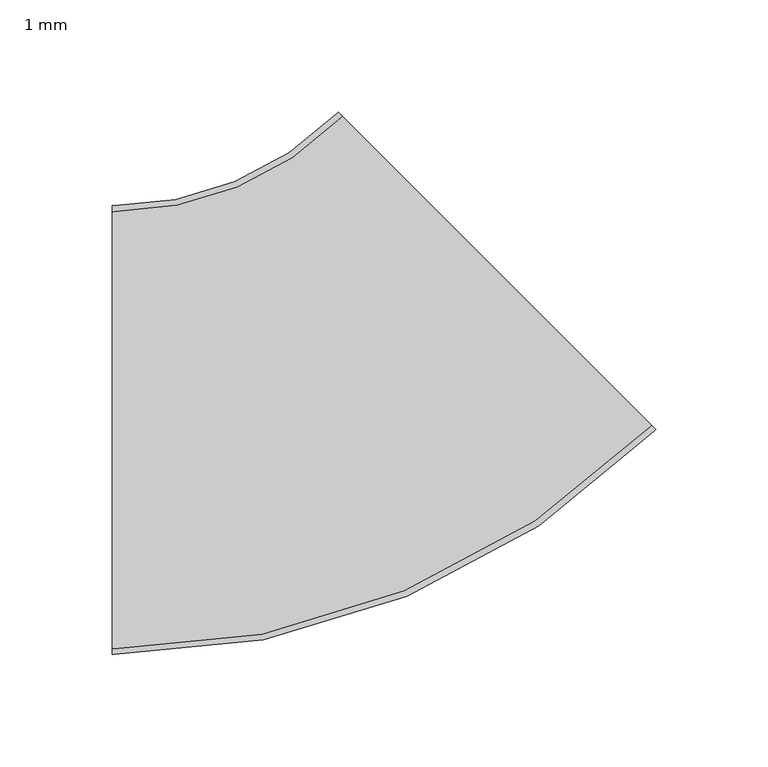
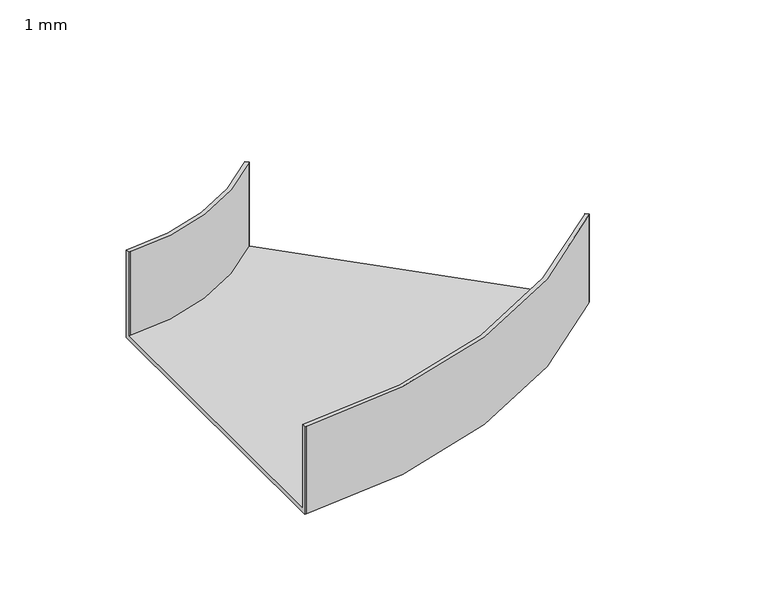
"""IFC4 building model written with IfcOpenShell, lengths in millimetres: cable carrier fitting geometry, BAKS_Kolano_koryta_KLIK (R140) : 1 mm."""

from ifc_helpers import new_model, si_unit, frame, origin, place, context, project, spatial, polyline, circle_curve, source, transform, mapped, element, save
from ifc_brep_helpers import plane_surface, cylinder_surface, revolved_surface, advanced_brep


def cable_carrier_fitting_1_mm_1f89d0ee(model_context):
    return source(origin(), model_context, "Body", "AdvancedBrep", [
        advanced_brep(
        [(-100.411255, -100.0, -30.0), (-100.411255, -100.0, 30.0), (-100.411255, -97.46, 30.0), (-100.411255, -97.46, -27.46), (-100.411255, 97.46, -27.46), (-100.411255, 97.46, 30.0), (-100.411255, 100.0, 30.0), (-100.411255, 100.0, -30.0), (141.7121574, 0.2908012, -30.0), (0.2908012, 141.7121574, -30.0), (0.2908012, 141.7121574, 30.0), (2.0868524, 139.9161062, 30.0), (2.0868524, 139.9161062, -27.46), (139.9161062, 2.0868524, -27.46), (139.9161062, 2.0868524, 30.0), (141.7121574, 0.2908012, 30.0), (-99.411255, -100.0, -30.0), (-99.411255, -100.0, 30.0), (141.0050506, -0.4163056, 30.0), (139.2089994, 1.3797456, 30.0), (-99.411255, -97.46, 30.0), (-99.411255, -97.46, -27.46), (139.2089994, 1.3797456, -27.46), (1.3797456, 139.2089994, -27.46), (-99.411255, 97.46, -27.46), (-99.411255, 97.46, 30.0), (1.3797456, 139.2089994, 30.0), (-0.4163056, 141.0050506, 30.0), (-99.411255, 100.0, 30.0), (-99.411255, 100.0, -30.0), (-0.4163056, 141.0050506, -30.0), (141.0050506, -0.4163056, -30.0)],
        [
            (0, 1),
            (1, 2),
            (2, 3),
            (3, 4),
            (4, 5),
            (5, 6),
            (6, 7),
            (7, 0),
            (8, 9),
            (9, 10),
            (10, 11),
            (11, 12),
            (12, 13),
            (13, 14),
            (14, 15),
            (15, 8),
            (0, 16),
            (16, 17),
            (17, 1),
            (17, 18, circle_curve(frame((-99.411255, 240.0, 30.0), z_axis=(0.0, 0.0, 1.0), x_axis=(0.0, -1.0, 0.0)), 340.0)),
            (18, 15),
            (14, 19),
            (19, 20, circle_curve(frame((-99.411255, 240.0, 30.0), z_axis=(0.0, 0.0, -1.0), x_axis=(0.0, -1.0, 0.0)), 337.46)),
            (20, 2),
            (20, 21),
            (21, 3),
            (21, 22, circle_curve(frame((-99.411255, 240.0, -27.46), z_axis=(0.0, 0.0, 1.0), x_axis=(0.0, -1.0, 0.0)), 337.46)),
            (22, 13),
            (12, 23),
            (23, 24, circle_curve(frame((-99.411255, 240.0, -27.46), z_axis=(0.0, 0.0, -1.0), x_axis=(0.0, -1.0, 0.0)), 142.54)),
            (24, 4),
            (24, 25),
            (25, 5),
            (25, 26, circle_curve(frame((-99.411255, 240.0, 30.0), z_axis=(0.0, 0.0, 1.0), x_axis=(0.0, -1.0, 0.0)), 142.54)),
            (26, 11),
            (10, 27),
            (27, 28, circle_curve(frame((-99.411255, 240.0, 30.0), z_axis=(0.0, 0.0, -1.0), x_axis=(0.0, -1.0, 0.0)), 140.0)),
            (28, 6),
            (28, 29),
            (29, 7),
            (29, 30, circle_curve(frame((-99.411255, 240.0, -30.0), z_axis=(0.0, 0.0, 1.0), x_axis=(0.0, -1.0, 0.0)), 140.0)),
            (30, 9),
            (8, 31),
            (31, 16, circle_curve(frame((-99.411255, 240.0, -30.0), z_axis=(0.0, 0.0, -1.0), x_axis=(0.0, -1.0, 0.0)), 340.0)),
            (31, 18),
            (19, 22),
            (23, 26),
            (27, 30),
        ],
        [
            plane_surface(frame((-100.411255, 0.0, 0.0), z_axis=(-1.0, -4.906741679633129e-12, 0.0), x_axis=(0.0, 0.0, 1.0))),
            plane_surface(frame((71.0014793, 71.0014793, 0.0), z_axis=(0.707106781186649, 0.707106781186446, 0.0), x_axis=(0.0, 0.0, 1.0))),
            plane_surface(frame((-100.411255, -100.0, -30.0), z_axis=(4.906741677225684e-12, -1.0, 0.0), x_axis=(1.0, 4.906741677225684e-12, 0.0))),
            plane_surface(frame((-100.411255, -100.0, 30.0), z_axis=(0.0, 0.0, 1.0), x_axis=(1.0, 4.906741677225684e-12, 0.0))),
            plane_surface(frame((-100.411255, -97.46, 30.0), z_axis=(-4.889821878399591e-12, 1.0, 0.0), x_axis=(1.0, 4.889821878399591e-12, 0.0))),
            plane_surface(frame((-100.411255, -97.46, -27.46), z_axis=(0.0, 0.0, 1.0), x_axis=(1.0, 4.906741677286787e-12, 0.0))),
            plane_surface(frame((-100.411255, 97.46, -27.46), z_axis=(4.906741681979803e-12, -1.0, 0.0), x_axis=(1.0, 4.906741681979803e-12, 0.0))),
            plane_surface(frame((-100.411255, 97.46, 30.0), z_axis=(0.0, 0.0, 1.0), x_axis=(1.0, 4.906741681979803e-12, 0.0))),
            plane_surface(frame((-100.411255, 100.0, 30.0), z_axis=(-4.906741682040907e-12, 1.0, 0.0), x_axis=(1.0, 4.906741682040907e-12, 0.0))),
            plane_surface(frame((-100.411255, 100.0, -30.0), z_axis=(0.0, 0.0, -1.0), x_axis=(1.0, 4.906741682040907e-12, 0.0))),
            cylinder_surface(frame((-99.411255, 240.0, 0.0), z_axis=(0.0, 0.0, 1.0), x_axis=(0.0, -1.0, 0.0)), 340.0),
            revolved_surface(polyline([(-99.411255, -97.45999999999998, 30.0), (-99.411255, -97.45999999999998, -27.46)]), (-99.411255, 240.0, 0.0), (0.0, 0.0, 1.0)),
            cylinder_surface(frame((-99.411255, 240.0, 0.0), z_axis=(0.0, 0.0, 1.0), x_axis=(0.0, -1.0, 0.0)), 142.54),
            revolved_surface(polyline([(-99.411255, 100.0, 30.0), (-99.411255, 100.0, -30.0)]), (-99.411255, 240.0, 0.0), (0.0, 0.0, 1.0)),
            plane_surface(frame((141.0050506, -0.4163056, -30.0), z_axis=(0.7071067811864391, -0.7071067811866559, 0.0), x_axis=(0.7071067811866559, 0.7071067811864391, 0.0))),
            plane_surface(frame((139.2089994, 1.3797456, 30.0), z_axis=(-0.7071067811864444, 0.7071067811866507, 0.0), x_axis=(0.7071067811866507, 0.7071067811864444, 0.0))),
            plane_surface(frame((1.3797456, 139.2089994, -27.46), z_axis=(0.7071067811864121, -0.7071067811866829, 0.0), x_axis=(0.7071067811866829, 0.7071067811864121, 0.0))),
            plane_surface(frame((-0.4163056, 141.0050506, 30.0), z_axis=(-0.7071067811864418, 0.7071067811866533, 0.0), x_axis=(0.7071067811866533, 0.7071067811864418, 0.0))),
        ],
        [
            (0, [[1, 2, 3, 4, 5, 6, 7, 8]]),
            (1, [[9, 10, 11, 12, 13, 14, 15, 16]]),
            (2, [[-1, 17, 18, 19]]),
            (3, [[-2, -19, 20, 21, -15, 22, 23, 24]]),
            (4, [[-3, -24, 25, 26]]),
            (5, [[-4, -26, 27, 28, -13, 29, 30, 31]]),
            (6, [[-5, -31, 32, 33]]),
            (7, [[-6, -33, 34, 35, -11, 36, 37, 38]]),
            (8, [[-7, -38, 39, 40]]),
            (9, [[-8, -40, 41, 42, -9, 43, 44, -17]]),
            (10, [[-20, -18, -44, 45]]),
            (11, [[-27, -25, -23, 46]]),
            (12, [[-34, -32, -30, 47]]),
            (13, [[-41, -39, -37, 48]]),
            (14, [[-45, -43, -16, -21]]),
            (15, [[-46, -22, -14, -28]]),
            (16, [[-47, -29, -12, -35]]),
            (17, [[-48, -36, -10, -42]]),
        ],
    ),
    ])


if __name__ == "__main__":
    model = new_model("IFC4")
    model_context = context("Model", 3, world=origin())
    ifc_project = project(units=[si_unit("LENGTHUNIT", "METRE", prefix="MILLI")], contexts=[model_context])
    site = spatial("IfcSite", under=ifc_project)
    building = spatial("IfcBuilding", under=site)
    placement = place(None, origin())
    cable_carrier_fitting_1_mm_shape = cable_carrier_fitting_1_mm_1f89d0ee(model_context)
    element("IfcCableCarrierFitting", 1, ObjectType="BAKS_Kolano_koryta_KLIK (R140) : 1 mm", at=placement, inside=building, context=model_context, shape_type="MappedRepresentation", body=[
        mapped(cable_carrier_fitting_1_mm_shape, transform((0.0, 0.0, 0.0), x_axis=(1.0, 0.0, 0.0), y_axis=(0.0, 1.0, 0.0), z_axis=(0.0, 0.0, 1.0))),
    ])
    save(model, "model.ifc")
